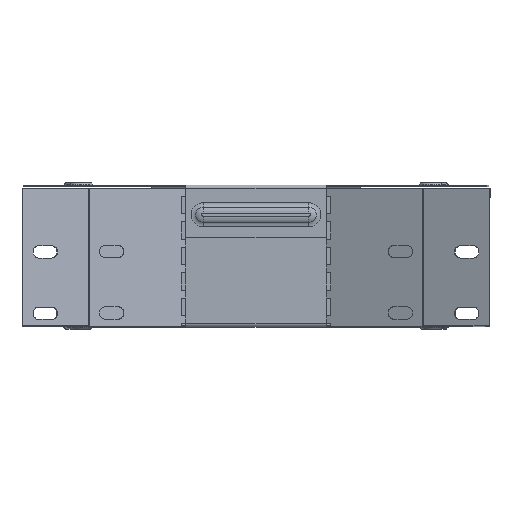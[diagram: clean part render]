
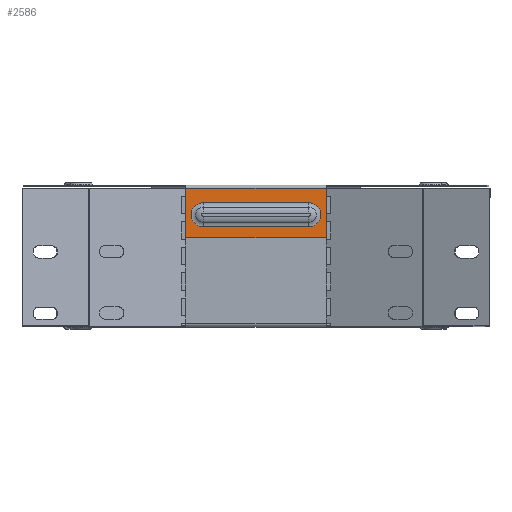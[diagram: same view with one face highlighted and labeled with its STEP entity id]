
A CAD part, top view. The second image highlights one B-rep face of the part: STEP entity #2586.
In plain terms, the highlighted planar face has unit normal (0, 0, 1).
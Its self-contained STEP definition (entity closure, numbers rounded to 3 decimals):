
#818 = CARTESIAN_POINT ( 'NONE',  ( 30., 56.983, 1.445 ) ) ;
#1279 = EDGE_CURVE ( 'NONE', #1334, #5560, #16854, .T. ) ;
#1334 = VERTEX_POINT ( 'NONE', #2336 ) ;
#1654 = EDGE_CURVE ( 'NONE', #2529, #3774, #18679, .T. ) ;
#1713 = ORIENTED_EDGE ( 'NONE', *, *, #18326, .F. ) ;
#1741 = DIRECTION ( 'NONE',  ( 0., -1., 0. ) ) ;
#1931 = CARTESIAN_POINT ( 'NONE',  ( -30., 63.9, 1.445 ) ) ;
#2114 = DIRECTION ( 'NONE',  ( 0., 1., 0. ) ) ;
#2196 = DIRECTION ( 'NONE',  ( -1., 0., 0. ) ) ;
#2315 = FACE_OUTER_BOUND ( 'NONE', #8900, .T. ) ;
#2336 = CARTESIAN_POINT ( 'NONE',  ( 30., 70.817, 1.445 ) ) ;
#2529 = VERTEX_POINT ( 'NONE', #6878 ) ;
#2586 = ADVANCED_FACE ( 'NONE', ( #15886, #2315 ), #3422, .F. ) ;
#3029 = CARTESIAN_POINT ( 'NONE',  ( -30., 70.817, 1.445 ) ) ;
#3155 = CARTESIAN_POINT ( 'NONE',  ( -40., 50.8, 1.445 ) ) ;
#3338 = EDGE_CURVE ( 'NONE', #4276, #6085, #5249, .T. ) ;
#3422 = PLANE ( 'NONE',  #9918 ) ;
#3774 = VERTEX_POINT ( 'NONE', #13175 ) ;
#3886 = DIRECTION ( 'NONE',  ( 1., 0., 0. ) ) ;
#3968 = VECTOR ( 'NONE', #8981, 1000. ) ;
#4276 = VERTEX_POINT ( 'NONE', #11354 ) ;
#4356 = DIRECTION ( 'NONE',  ( 0., 0., -1. ) ) ;
#4582 = EDGE_CURVE ( 'NONE', #5560, #4276, #8002, .T. ) ;
#4700 = CARTESIAN_POINT ( 'NONE',  ( 30., 56.983, 1.445 ) ) ;
#5249 = CIRCLE ( 'NONE', #11116, 6.917 ) ;
#5400 = VECTOR ( 'NONE', #7671, 1000. ) ;
#5519 = ORIENTED_EDGE ( 'NONE', *, *, #12252, .T. ) ;
#5560 = VERTEX_POINT ( 'NONE', #4700 ) ;
#5980 = ORIENTED_EDGE ( 'NONE', *, *, #3338, .T. ) ;
#6085 = VERTEX_POINT ( 'NONE', #3029 ) ;
#6154 = CARTESIAN_POINT ( 'NONE',  ( 40., 80., 1.445 ) ) ;
#6210 = VECTOR ( 'NONE', #2196, 1000. ) ;
#6357 = CARTESIAN_POINT ( 'NONE',  ( -40., 79., 1.445 ) ) ;
#6728 = CARTESIAN_POINT ( 'NONE',  ( 30., 63.9, 1.445 ) ) ;
#6779 = ORIENTED_EDGE ( 'NONE', *, *, #4582, .T. ) ;
#6878 = CARTESIAN_POINT ( 'NONE',  ( 40., 50.8, 1.445 ) ) ;
#7027 = DIRECTION ( 'NONE',  ( 0., 1., 0. ) ) ;
#7082 = VECTOR ( 'NONE', #12973, 1000. ) ;
#7435 = LINE ( 'NONE', #9485, #16058 ) ;
#7671 = DIRECTION ( 'NONE',  ( 1., 0., 0. ) ) ;
#8002 = LINE ( 'NONE', #818, #6210 ) ;
#8070 = ORIENTED_EDGE ( 'NONE', *, *, #17207, .T. ) ;
#8292 = ORIENTED_EDGE ( 'NONE', *, *, #1654, .T. ) ;
#8900 = EDGE_LOOP ( 'NONE', ( #1713, #16267, #8070, #8292 ) ) ;
#8949 = CARTESIAN_POINT ( 'NONE',  ( -40., 50.8, 1.445 ) ) ;
#8981 = DIRECTION ( 'NONE',  ( 0., 1., 0. ) ) ;
#9485 = CARTESIAN_POINT ( 'NONE',  ( 40., 50.8, 1.445 ) ) ;
#9838 = CARTESIAN_POINT ( 'NONE',  ( 0., 80.8, 1.445 ) ) ;
#9918 = AXIS2_PLACEMENT_3D ( 'NONE', #9838, #4356, #9957 ) ;
#9957 = DIRECTION ( 'NONE',  ( 0., 1., 0. ) ) ;
#10436 = VERTEX_POINT ( 'NONE', #8949 ) ;
#10548 = EDGE_LOOP ( 'NONE', ( #5519, #12240, #6779, #5980 ) ) ;
#10760 = DIRECTION ( 'NONE',  ( 0., 0., -1. ) ) ;
#10913 = LINE ( 'NONE', #15799, #7082 ) ;
#11116 = AXIS2_PLACEMENT_3D ( 'NONE', #1931, #10760, #2114 ) ;
#11354 = CARTESIAN_POINT ( 'NONE',  ( -30., 56.983, 1.445 ) ) ;
#11959 = CARTESIAN_POINT ( 'NONE',  ( 30., 70.817, 1.445 ) ) ;
#12240 = ORIENTED_EDGE ( 'NONE', *, *, #1279, .T. ) ;
#12252 = EDGE_CURVE ( 'NONE', #6085, #1334, #14620, .T. ) ;
#12973 = DIRECTION ( 'NONE',  ( 1., 0., 0. ) ) ;
#13175 = CARTESIAN_POINT ( 'NONE',  ( 40., 79., 1.445 ) ) ;
#13343 = AXIS2_PLACEMENT_3D ( 'NONE', #6728, #16857, #7027 ) ;
#14211 = EDGE_CURVE ( 'NONE', #14388, #10436, #15001, .T. ) ;
#14388 = VERTEX_POINT ( 'NONE', #6357 ) ;
#14549 = VECTOR ( 'NONE', #1741, 1000. ) ;
#14620 = LINE ( 'NONE', #11959, #5400 ) ;
#15001 = LINE ( 'NONE', #3155, #14549 ) ;
#15799 = CARTESIAN_POINT ( 'NONE',  ( 0., 79., 1.445 ) ) ;
#15886 = FACE_BOUND ( 'NONE', #10548, .T. ) ;
#16058 = VECTOR ( 'NONE', #3886, 1000. ) ;
#16267 = ORIENTED_EDGE ( 'NONE', *, *, #14211, .T. ) ;
#16854 = CIRCLE ( 'NONE', #13343, 6.917 ) ;
#16857 = DIRECTION ( 'NONE',  ( 0., 0., -1. ) ) ;
#17207 = EDGE_CURVE ( 'NONE', #10436, #2529, #7435, .T. ) ;
#18326 = EDGE_CURVE ( 'NONE', #14388, #3774, #10913, .T. ) ;
#18679 = LINE ( 'NONE', #6154, #3968 ) ;
